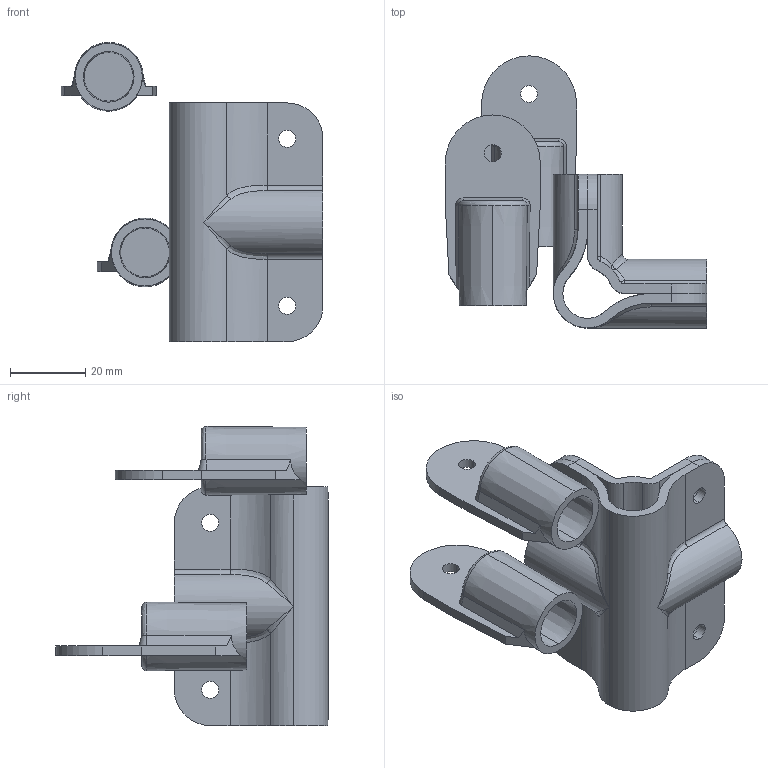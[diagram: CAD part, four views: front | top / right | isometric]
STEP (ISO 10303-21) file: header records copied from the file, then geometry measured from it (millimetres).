
FILE_DESCRIPTION (( 'STEP AP203' ), '1' );
FILE_NAME ('FDPCK-.5-SET.step', '2019-09-11T18:20:05', ( 'ydmin' ), ( '' ), 'SwSTEP 2.0', 'SolidWorks 2017', '' );
FILE_SCHEMA (( 'CONFIG_CONTROL_DESIGN' ));
Length unit declared in the file: inch
Products named in the file (1): FDPCK-.5-SET
Bounding box: 69.7 x 72.44 x 79.61 mm (x, y, z)
Volume: 33338 mm3; surface area: 27989.2 mm2
Topology: 4 solids, 4 shells, 188 faces, 486 edges, 296 vertices
Faces by surface type: cylinder 80, plane 50, bspline 38, sphere 12, cone 8
Entity records: 6933 total; most frequent: CARTESIAN_POINT 2521, ORIENTED_EDGE 948, DIRECTION 872, EDGE_CURVE 474, AXIS2_PLACEMENT_3D 335, VERTEX_POINT 296, EDGE_LOOP 210, VECTOR 202
